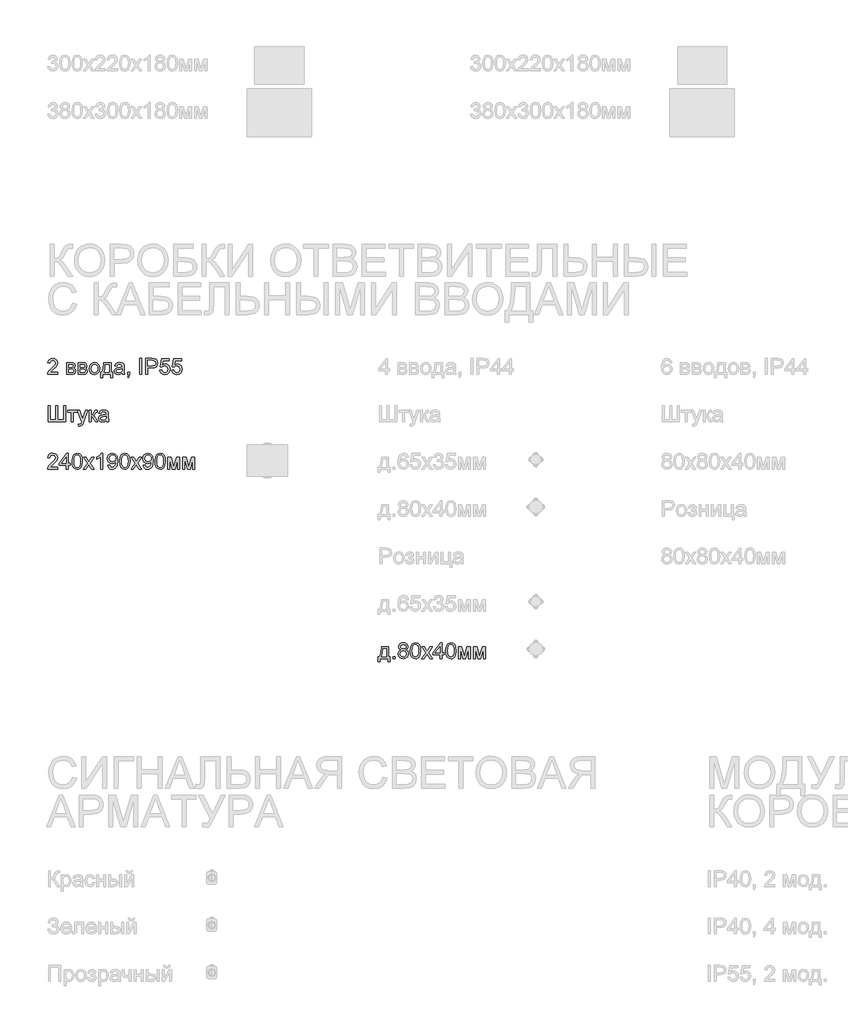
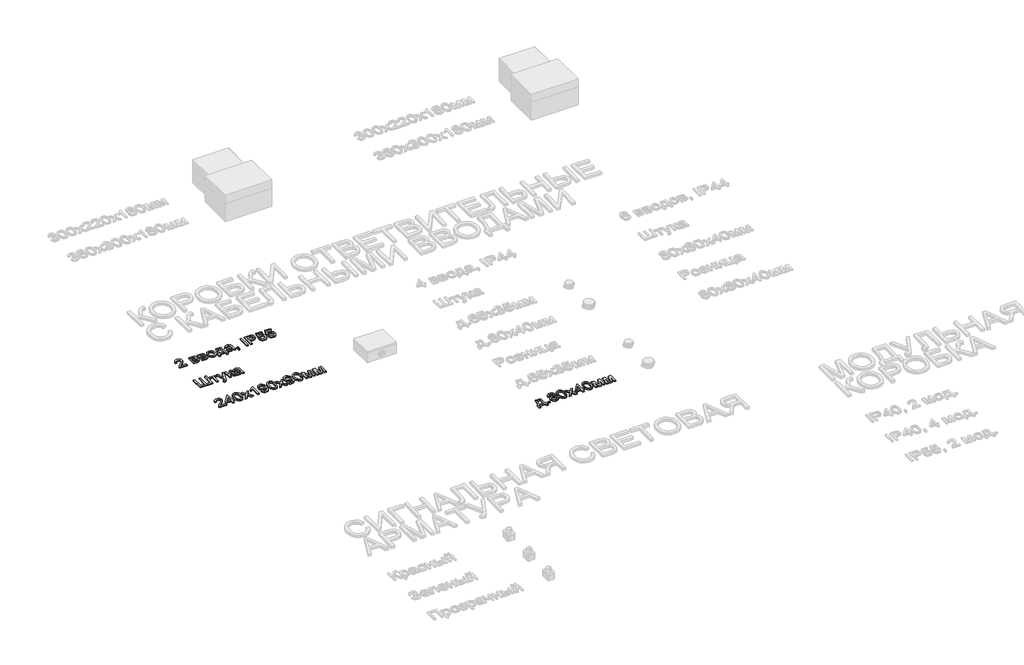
# One storey, part 11 of 98: 4 proxies.
"""IFC4 building model written with IfcOpenShell, lengths in millimetres."""

from ifc_helpers import new_model, si_unit, origin, origin_with_axes, place, context, project, spatial, polyline, outline, extrude, element, save

model = new_model("IFC4")

# Units and contexts
model_context = context("Model", 3, world=origin())
ifc_project = project(units=[si_unit("LENGTHUNIT", "METRE", prefix="MILLI")], contexts=[model_context])

# Site, building, storey
site = spatial("IfcSite", under=ifc_project)
building = spatial("IfcBuilding", under=site)
storey = spatial("IfcBuildingStorey", under=building, Name="Этаж 01", Elevation=0.0)

# Proxies
placement = place(None, origin())
element("IfcBuildingElementProxy", 1, Name="100", ObjectType="100", at=placement, inside=storey, context=model_context, shape_type="SweptSolid", body=[
    extrude(outline(polyline([(23.2423416, -45146.9551277), (23.2423416, -45159.5121665), (-42.6821119, -45159.5121665), (-41.3332113, -45150.8546768), (-33.7057912, -45137.5250859), (-17.9849673, -45122.9692216), (3.6955449, -45102.0489988), (9.115673, -45087.8242283), (4.0021133, -45076.3095219), (-9.3520032, -45071.6128951), (-23.2702053, -45076.1991573), (-28.5554433, -45088.8788234), (-41.1124821, -45087.3091935), (-38.0682586, -45075.1629563), (-31.4862365, -45066.2908689), (-21.7097725, -45060.8646095), (-9.082223, -45059.0558563), (3.6372969, -45061.0669445), (13.3953669, -45067.1002093), (19.6033755, -45076.1133182), (21.6727118, -45087.0639389), (19.4408943, -45098.9710528), (12.0219408, -45111.2828369), (-5.9674888, -45128.4874515), (-20.4129885, -45140.5662437), (-26.0783712, -45146.9551277), (23.2423416, -45146.9551277)])), origin_with_axes(), (0.0, 0.0, 1.0), 10.0),
    extrude(outline(polyline([(78.1793862, -45085.7395637), (105.8441123, -45085.7395637), (121.0131132, -45087.4195581), (129.5479755, -45093.5754502), (133.1164308, -45104.3053417), (130.9581898, -45113.024145), (124.4589412, -45119.2413507), (132.8957016, -45126.0471676), (136.2556905, -45137.8807051), (134.1281063, -45147.4517684), (129.0697289, -45154.1901403), (121.0621641, -45158.1816599), (110.0870179, -45159.5121665), (78.1793862, -45159.5121665), (78.1793862, -45085.7395637)]), holes=[polyline([(90.736425, -45146.9551277), (106.1384179, -45146.9551277), (119.7991026, -45144.6865221), (123.6986518, -45136.8506356), (121.5526734, -45130.8051081), (115.9608671, -45127.2857037), (104.9121445, -45126.5499397), (90.736425, -45126.5499397), (90.736425, -45146.9551277)]), polyline([(90.736425, -45113.9929009), (103.146311, -45113.9929009), (113.3856932, -45113.3552388), (118.3643628, -45110.8045903), (120.5593921, -45106.1938026), (116.7088938, -45100.0379106), (103.5387184, -45098.2966025), (90.736425, -45098.2966025), (90.736425, -45113.9929009)])]), origin_with_axes(), (0.0, 0.0, 1.0), 10.0),
    extrude(outline(polyline([(151.951989, -45085.7395637), (179.616715, -45085.7395637), (194.785716, -45087.4195581), (203.3205782, -45093.5754502), (206.8890336, -45104.3053417), (204.7307926, -45113.024145), (198.231544, -45119.2413507), (206.6683044, -45126.0471676), (210.0282933, -45137.8807051), (207.9007091, -45147.4517684), (202.8423316, -45154.1901403), (194.8347669, -45158.1816599), (183.8596207, -45159.5121665), (151.951989, -45159.5121665), (151.951989, -45085.7395637)]), holes=[polyline([(164.5090278, -45113.9929009), (176.9189137, -45113.9929009), (187.1582959, -45113.3552388), (192.1369656, -45110.8045903), (194.3319948, -45106.1938026), (190.4814966, -45100.0379106), (177.3113212, -45098.2966025), (164.5090278, -45098.2966025), (164.5090278, -45113.9929009)]), polyline([(164.5090278, -45146.9551277), (179.9110206, -45146.9551277), (193.5717054, -45144.6865221), (197.4712545, -45136.8506356), (195.3252762, -45130.8051081), (189.7334699, -45127.2857037), (178.6847473, -45126.5499397), (164.5090278, -45126.5499397), (164.5090278, -45146.9551277)])]), origin_with_axes(), (0.0, 0.0, 1.0), 10.0),
    extrude(outline(polyline([(222.5853321, -45122.6258651), (225.3015275, -45104.8387706), (233.4501136, -45092.3369141), (243.5178176, -45086.2116789), (255.5720843, -45084.1699338), (268.7637195, -45086.656203), (279.300473, -45094.1150104), (286.2074574, -45105.957745), (288.5097856, -45121.5957955), (284.4385582, -45143.9384953), (272.5804952, -45156.5813732), (255.5720843, -45161.0817963), (242.2210336, -45158.6047242), (231.6965428, -45151.1735079), (224.8631347, -45139.082453), (222.5853321, -45122.6258651)]), holes=[polyline([(235.1423708, -45122.6013396), (236.5955047, -45133.9658276), (240.9549064, -45142.0622972), (247.5154686, -45146.9091424), (255.5720843, -45148.5247575), (263.5919118, -45146.8999454), (270.1402113, -45142.025509), (274.4996129, -45133.8217405), (275.9527468, -45122.2089321), (274.4904159, -45111.175538), (270.1034231, -45103.189433), (263.5459265, -45098.3425877), (255.5720843, -45096.7269726), (247.5154686, -45098.3364563), (240.9549064, -45103.1649075), (236.5955047, -45111.242983), (235.1423708, -45122.6013396)])]), origin_with_axes(), (0.0, 0.0, 1.0), 10.0),
    extrude(outline(polyline([(313.6238631, -45085.7395637), (360.7127585, -45085.7395637), (360.7127585, -45146.9551277), (370.1305376, -45146.9551277), (370.1305376, -45179.9173545), (357.5734988, -45179.9173545), (357.5734988, -45159.5121665), (305.7757139, -45159.5121665), (305.7757139, -45179.9173545), (293.2186751, -45179.9173545), (293.2186751, -45146.9551277), (301.0668244, -45146.9551277), (310.7666463, -45123.0060098), (313.6238631, -45085.7395637)]), holes=[polyline([(324.6112721, -45098.2966025), (321.6682161, -45126.905559), (315.193493, -45146.9551277), (348.1557197, -45146.9551277), (348.1557197, -45098.2966025), (324.6112721, -45098.2966025)])]), origin_with_axes(), (0.0, 0.0, 1.0), 10.0),
    extrude(outline(polyline([(431.3461016, -45150.0943874), (419.1692075, -45158.6047242), (405.7169893, -45161.0817963), (395.2231553, -45159.5918742), (387.482305, -45155.122108), (382.7090361, -45148.3346852), (381.1179465, -45139.8917934), (383.5214422, -45129.9589795), (389.8367498, -45122.7484924), (398.6291295, -45118.6282141), (409.4939111, -45116.7397532), (431.2725252, -45112.4232711), (431.3461016, -45109.6273679), (427.8880108, -45100.3567416), (414.0065969, -45096.7269726), (401.3024053, -45099.142731), (395.2446151, -45107.7143815), (382.6875764, -45106.1447517), (388.1199672, -45093.8820185), (399.0583251, -45086.6960569), (415.6252777, -45084.1699338), (430.8433295, -45086.4017513), (439.4395055, -45092.0058203), (443.2900037, -45100.5284199), (443.9031404, -45111.5158288), (443.9031404, -45127.1385509), (444.5408025, -45148.9539532), (447.0424, -45159.5121665), (434.4853613, -45159.5121665), (431.3461016, -45150.0943874)]), holes=[polyline([(431.3461016, -45124.9803098), (411.0880664, -45128.8308081), (400.2845985, -45130.8664218), (395.3917679, -45134.1773597), (393.6749853, -45139.0088766), (397.4151189, -45145.8024308), (408.3902651, -45148.5247575), (421.0944567, -45145.5203879), (429.2859624, -45138.2485871), (431.2725252, -45128.5365025), (431.3461016, -45124.9803098)])]), origin_with_axes(), (0.0, 0.0, 1.0), 10.0),
    extrude(outline(polyline([(464.3083284, -45159.5121665), (464.3083284, -45146.9551277), (476.8653671, -45146.9551277), (476.8653671, -45159.5121665), (474.6090242, -45172.3512481), (467.447588, -45179.9173545), (464.3083284, -45175.2084649), (468.919116, -45169.7883369), (470.5623223, -45159.5121665), (464.3083284, -45159.5121665)])), origin_with_axes(), (0.0, 0.0, 1.0), 10.0),
    extrude(outline(polyline([(542.7898207, -45159.5121665), (542.7898207, -45059.0558563), (555.3468594, -45059.0558563), (555.3468594, -45159.5121665), (542.7898207, -45159.5121665)])), origin_with_axes(), (0.0, 0.0, 1.0), 10.0),
    extrude(outline(polyline([(580.460937, -45159.5121665), (580.460937, -45059.0558563), (617.6905949, -45059.0558563), (632.7001803, -45060.0123495), (644.9015998, -45064.7089763), (652.8110627, -45074.421061), (655.8031696, -45088.1185339), (653.7828843, -45099.9582028), (647.7220284, -45109.8235716), (636.3881973, -45116.4822358), (618.5489862, -45118.7017905), (593.0179757, -45118.7017905), (593.0179757, -45159.5121665), (580.460937, -45159.5121665)]), holes=[polyline([(593.0179757, -45106.1447517), (619.2847502, -45106.1447517), (637.7769518, -45101.533964), (641.8788361, -45095.9850773), (643.2461308, -45088.5599923), (640.021032, -45078.1611946), (631.5474834, -45072.4712864), (618.9904446, -45071.6128951), (593.0179757, -45071.6128951), (593.0179757, -45106.1447517)])]), origin_with_axes(), (0.0, 0.0, 1.0), 10.0),
    extrude(outline(polyline([(668.3602083, -45132.8284591), (680.9172471, -45131.2588292), (687.2448174, -45144.1960127), (700.3659419, -45148.5247575), (709.3667881, -45147.019507), (716.1112913, -45142.5037555), (720.3235402, -45135.4986692), (721.7276231, -45126.5254142), (716.4669106, -45111.6139307), (709.8603631, -45107.5120464), (700.5621457, -45106.1447517), (689.5379485, -45108.3275182), (682.486877, -45113.9929009), (669.9298382, -45112.4232711), (680.9172471, -45060.6254862), (729.5757723, -45060.6254862), (729.5757723, -45073.1825249), (691.0707902, -45073.1825249), (685.6997131, -45100.847251), (694.6699024, -45095.4025974), (704.0692873, -45093.5877129), (715.8016573, -45095.8379245), (725.5413331, -45102.5885591), (732.0988297, -45112.8769922), (734.2846619, -45125.7405993), (732.3164932, -45138.2976381), (726.4119872, -45149.0397923), (715.1057472, -45158.0712953), (700.316891, -45161.0817963), (687.9836471, -45159.1473501), (678.1581322, -45153.3440117), (671.422826, -45144.3462312), (668.3602083, -45132.8284591)])), origin_with_axes(), (0.0, 0.0, 1.0), 10.0),
    extrude(outline(polyline([(745.2720708, -45132.8284591), (757.8291096, -45131.2588292), (764.1566799, -45144.1960127), (777.2778044, -45148.5247575), (786.2786505, -45147.019507), (793.0231538, -45142.5037555), (797.2354026, -45135.4986692), (798.6394856, -45126.5254142), (793.378773, -45111.6139307), (786.7722255, -45107.5120464), (777.4740081, -45106.1447517), (766.449811, -45108.3275182), (759.3987394, -45113.9929009), (746.8417007, -45112.4232711), (757.8291096, -45060.6254862), (806.4876348, -45060.6254862), (806.4876348, -45073.1825249), (767.9826526, -45073.1825249), (762.6115755, -45100.847251), (771.5817648, -45095.4025974), (780.9811498, -45093.5877129), (792.7135198, -45095.8379245), (802.4531956, -45102.5885591), (809.0106922, -45112.8769922), (811.1965243, -45125.7405993), (809.2283557, -45138.2976381), (803.3238496, -45149.0397923), (792.0176097, -45158.0712953), (777.2287535, -45161.0817963), (764.8955096, -45159.1473501), (755.0699946, -45153.3440117), (748.3346884, -45144.3462312), (745.2720708, -45132.8284591)])), origin_with_axes(), (0.0, 0.0, 1.0), 10.0),
])
element("IfcBuildingElementProxy", 2, Name="100", ObjectType="100", at=placement, inside=storey, context=model_context, shape_type="SweptSolid", body=[
    extrude(outline(polyline([(-37.9732224, -45359.0558563), (-25.4161836, -45359.0558563), (-25.4161836, -45446.9551277), (10.6853028, -45446.9551277), (10.6853028, -45359.0558563), (23.2423416, -45359.0558563), (23.2423416, -45446.9551277), (59.3438281, -45446.9551277), (59.3438281, -45359.0558563), (71.9008668, -45359.0558563), (71.9008668, -45459.5121665), (-37.9732224, -45459.5121665), (-37.9732224, -45359.0558563)])), origin_with_axes(), (0.0, 0.0, 1.0), 10.0),
    extrude(outline(polyline([(84.4579056, -45385.7395637), (144.1038398, -45385.7395637), (144.1038398, -45398.2966025), (120.5593921, -45398.2966025), (120.5593921, -45459.5121665), (108.0023533, -45459.5121665), (108.0023533, -45398.2966025), (84.4579056, -45398.2966025), (84.4579056, -45385.7395637)])), origin_with_axes(), (0.0, 0.0, 1.0), 10.0),
    extrude(outline(polyline([(155.0912487, -45487.7655037), (153.5216188, -45475.6744488), (159.8982401, -45476.7780948), (165.8579284, -45475.3924059), (169.5122229, -45471.529645), (172.9457882, -45462.2835442), (173.9268068, -45459.2423863), (147.2430994, -45385.7395637), (160.4868513, -45385.7395637), (174.6380454, -45426.6970925), (179.5676641, -45443.080104), (184.4972828, -45428.6100789), (199.0408844, -45385.7395637), (212.1865343, -45385.7395637), (186.5083711, -45461.278), (179.8374442, -45477.6610116), (172.5533807, -45486.5147049), (162.7677196, -45489.3351335), (155.0912487, -45487.7655037)])), origin_with_axes(), (0.0, 0.0, 1.0), 10.0),
    extrude(outline(polyline([(222.5853321, -45385.7395637), (235.1423708, -45385.7395637), (235.1423708, -45417.1321606), (243.5546058, -45414.8758177), (250.4462618, -45401.7301677), (256.1729582, -45390.3871396), (261.2252043, -45386.6960569), (270.4099914, -45385.7395637), (272.8134871, -45385.7395637), (272.8134871, -45398.3701789), (269.4289728, -45398.2966025), (263.2976062, -45399.6209776), (258.9811241, -45407.8860598), (253.9166153, -45416.8255923), (246.8164928, -45421.203388), (254.7382184, -45426.0900872), (262.5127913, -45436.3846517), (275.9527468, -45459.5121665), (261.6789254, -45459.5121665), (248.50875, -45436.875161), (241.8868741, -45427.2979664), (235.1423708, -45424.9803098), (235.1423708, -45459.5121665), (222.5853321, -45459.5121665), (222.5853321, -45385.7395637)])), origin_with_axes(), (0.0, 0.0, 1.0), 10.0),
    extrude(outline(polyline([(330.8897914, -45450.0943874), (318.7128974, -45458.6047242), (305.2606791, -45461.0817963), (294.7668452, -45459.5918742), (287.0259949, -45455.122108), (282.252726, -45448.3346852), (280.6616364, -45439.8917934), (283.0651321, -45429.9589795), (289.3804396, -45422.7484924), (298.1728193, -45418.6282141), (309.0376009, -45416.7397532), (330.816215, -45412.4232711), (330.8897914, -45409.6273679), (327.4317007, -45400.3567416), (313.5502867, -45396.7269726), (300.8460952, -45399.142731), (294.788305, -45407.7143815), (282.2312662, -45406.1447517), (287.663657, -45393.8820185), (298.602015, -45386.6960569), (315.1689675, -45384.1699338), (330.3870194, -45386.4017513), (338.9831953, -45392.0058203), (342.8336935, -45400.5284199), (343.4468302, -45411.5158288), (343.4468302, -45427.1385509), (344.0844923, -45448.9539532), (346.5860899, -45459.5121665), (334.0290511, -45459.5121665), (330.8897914, -45450.0943874)]), holes=[polyline([(330.8897914, -45424.9803098), (310.6317562, -45428.8308081), (299.8282883, -45430.8664218), (294.9354578, -45434.1773597), (293.2186751, -45439.0088766), (296.9588087, -45445.8024308), (307.9339549, -45448.5247575), (320.6381465, -45445.5203879), (328.8296523, -45438.2485871), (330.816215, -45428.5365025), (330.8897914, -45424.9803098)])]), origin_with_axes(), (0.0, 0.0, 1.0), 10.0),
])
element("IfcBuildingElementProxy", 3, Name="100", ObjectType="100", at=placement, inside=storey, context=model_context, shape_type="SweptSolid", body=[
    extrude(outline(polyline([(23.2423416, -45746.9551277), (23.2423416, -45759.5121665), (-42.6821119, -45759.5121665), (-41.3332113, -45750.8546768), (-33.7057912, -45737.5250859), (-17.9849673, -45722.9692216), (3.6955449, -45702.0489988), (9.115673, -45687.8242283), (4.0021133, -45676.3095219), (-9.3520032, -45671.6128951), (-23.2702053, -45676.1991573), (-28.5554433, -45688.8788234), (-41.1124821, -45687.3091935), (-38.0682586, -45675.1629563), (-31.4862365, -45666.2908689), (-21.7097725, -45660.8646095), (-9.082223, -45659.0558563), (3.6372969, -45661.0669445), (13.3953669, -45667.1002093), (19.6033755, -45676.1133182), (21.6727118, -45687.0639389), (19.4408943, -45698.9710528), (12.0219408, -45711.2828369), (-5.9674888, -45728.4874515), (-20.4129885, -45740.5662437), (-26.0783712, -45746.9551277), (23.2423416, -45746.9551277)])), origin_with_axes(), (0.0, 0.0, 1.0), 10.0),
    extrude(outline(polyline([(76.6097564, -45759.5121665), (76.6097564, -45735.9677188), (31.0904908, -45735.9677188), (31.0904908, -45723.41068), (79.7490161, -45660.6254862), (89.1667951, -45660.6254862), (89.1667951, -45723.41068), (101.7238339, -45723.41068), (101.7238339, -45735.9677188), (89.1667951, -45735.9677188), (89.1667951, -45759.5121665), (76.6097564, -45759.5121665)]), holes=[polyline([(76.6097564, -45723.41068), (76.6097564, -45684.6113922), (46.5415346, -45723.41068), (76.6097564, -45723.41068)])]), origin_with_axes(), (0.0, 0.0, 1.0), 10.0),
    extrude(outline(polyline([(112.7112428, -45710.0933518), (116.4023255, -45681.1900897), (127.365209, -45664.5250353), (145.6734696, -45659.0558563), (160.3396985, -45662.2932179), (170.4687161, -45671.6251578), (176.354828, -45686.4875904), (178.6356964, -45710.0933518), (174.9814019, -45738.8739865), (164.0553066, -45755.5758291), (155.823947, -45759.7053045), (145.6734696, -45761.0817963), (132.6259215, -45758.6905633), (122.7176331, -45751.5168644), (115.2128404, -45734.5268476), (112.7112428, -45710.0933518)]), holes=[polyline([(125.2682816, -45710.0688263), (126.7398096, -45729.8210238), (131.1543935, -45741.2529568), (137.7272185, -45746.7068073), (145.6734696, -45748.5247575), (153.6197207, -45746.700676), (160.1925457, -45741.2284313), (164.6071296, -45729.7903669), (166.0786576, -45710.0688263), (164.6561806, -45690.7611529), (160.3887494, -45679.2403151), (153.8281872, -45673.5197501), (145.5263168, -45671.6128951), (137.6659048, -45673.2928895), (131.3505973, -45678.3328729), (126.7888605, -45690.5710806), (125.2682816, -45710.0688263)])]), origin_with_axes(), (0.0, 0.0, 1.0), 10.0),
    extrude(outline(polyline([(184.9142158, -45759.5121665), (211.7450759, -45722.4296613), (186.4838456, -45685.7395637), (201.5915329, -45685.7395637), (213.7806896, -45703.3978995), (219.4705978, -45711.736558), (224.4002166, -45704.9184784), (238.2816305, -45685.7395637), (253.3893178, -45685.7395637), (226.8527632, -45722.4296613), (252.4082991, -45759.5121665), (237.3006119, -45759.5121665), (221.9231445, -45737.2185176), (219.1027158, -45733.1472901), (200.021903, -45759.5121665), (184.9142158, -45759.5121665)])), origin_with_axes(), (0.0, 0.0, 1.0), 10.0),
    extrude(outline(polyline([(307.3453437, -45759.5121665), (294.788305, -45759.5121665), (294.788305, -45681.2268779), (282.8934538, -45689.7004265), (269.6742274, -45696.0402596), (269.6742274, -45684.1699338), (288.0805899, -45672.4222355), (299.2519399, -45659.0558563), (307.3453437, -45659.0558563), (307.3453437, -45759.5121665)])), origin_with_axes(), (0.0, 0.0, 1.0), 10.0),
    extrude(outline(polyline([(338.7379407, -45734.3980889), (351.2949794, -45732.8284591), (356.9358367, -45744.8091494), (367.62894, -45748.5247575), (377.7947458, -45746.1335246), (384.6864019, -45739.7446406), (388.7944175, -45728.8308081), (390.609302, -45714.2626811), (390.5357256, -45711.8101344), (380.4925471, -45721.3260154), (366.7214978, -45724.9803098), (355.2711707, -45722.7484924), (345.7399613, -45716.0530401), (339.3112234, -45705.7094247), (337.1683108, -45692.5331179), (339.4154567, -45678.921484), (346.1568942, -45668.2529062), (356.2828462, -45661.3551188), (368.6835351, -45659.0558563), (386.5748628, -45664.3043061), (398.8866469, -45679.2648406), (403.0927644, -45707.371025), (398.8989096, -45737.8684424), (393.6841823, -45747.8595043), (386.42771, -45755.1466334), (377.4421922, -45759.5980056), (367.0403288, -45761.0817963), (356.3043059, -45759.3312911), (347.7387868, -45754.0797757), (341.7484417, -45745.6583437), (338.7379407, -45734.3980889)]), holes=[polyline([(390.5357256, -45692.2388123), (389.1806936, -45683.7284755), (385.1155975, -45677.1801759), (378.8064213, -45673.0047153), (370.7191488, -45671.6128951), (362.3314393, -45673.1120142), (355.6114615, -45677.6093716), (351.1968776, -45684.4918306), (349.7253496, -45693.1462545), (351.1171698, -45700.9054989), (355.2926305, -45707.0644567), (361.8470613, -45711.0835675), (370.3757923, -45712.4232711), (384.8580801, -45707.0644567), (389.1163142, -45700.6786384), (390.5357256, -45692.2388123)])]), origin_with_axes(), (0.0, 0.0, 1.0), 10.0),
    extrude(outline(polyline([(414.0801733, -45710.0933518), (417.771256, -45681.1900897), (428.7341394, -45664.5250353), (447.0424, -45659.0558563), (461.7086289, -45662.2932179), (471.8376465, -45671.6251578), (477.7237584, -45686.4875904), (480.0046268, -45710.0933518), (476.3503323, -45738.8739865), (465.4242371, -45755.5758291), (457.1928774, -45759.7053045), (447.0424, -45761.0817963), (433.994852, -45758.6905633), (424.0865635, -45751.5168644), (416.5817708, -45734.5268476), (414.0801733, -45710.0933518)]), holes=[polyline([(426.637212, -45710.0688263), (428.10874, -45729.8210238), (432.523324, -45741.2529568), (439.096149, -45746.7068073), (447.0424, -45748.5247575), (454.9886511, -45746.700676), (461.5614761, -45741.2284313), (465.9760601, -45729.7903669), (467.447588, -45710.0688263), (466.025111, -45690.7611529), (461.7576799, -45679.2403151), (455.1971176, -45673.5197501), (446.8952473, -45671.6128951), (439.0348353, -45673.2928895), (432.7195277, -45678.3328729), (428.157791, -45690.5710806), (426.637212, -45710.0688263)])]), origin_with_axes(), (0.0, 0.0, 1.0), 10.0),
    extrude(outline(polyline([(486.2831462, -45759.5121665), (513.1140064, -45722.4296613), (487.852776, -45685.7395637), (502.9604633, -45685.7395637), (515.1496201, -45703.3978995), (520.8395283, -45711.736558), (525.769147, -45704.9184784), (539.650561, -45685.7395637), (554.7582482, -45685.7395637), (528.2216937, -45722.4296613), (553.7772296, -45759.5121665), (538.6695423, -45759.5121665), (523.2920749, -45737.2185176), (520.4716463, -45733.1472901), (501.3908335, -45759.5121665), (486.2831462, -45759.5121665)])), origin_with_axes(), (0.0, 0.0, 1.0), 10.0),
    extrude(outline(polyline([(563.1950087, -45734.3980889), (575.7520474, -45732.8284591), (581.3929047, -45744.8091494), (592.086008, -45748.5247575), (602.2518138, -45746.1335246), (609.1434699, -45739.7446406), (613.2514855, -45728.8308081), (615.06637, -45714.2626811), (614.9927936, -45711.8101344), (604.9496151, -45721.3260154), (591.1785658, -45724.9803098), (579.7282387, -45722.7484924), (570.1970293, -45716.0530401), (563.7682914, -45705.7094247), (561.6253788, -45692.5331179), (563.8725247, -45678.921484), (570.6139622, -45668.2529062), (580.7399141, -45661.3551188), (593.1406031, -45659.0558563), (611.0319308, -45664.3043061), (623.3437149, -45679.2648406), (627.5498323, -45707.371025), (623.3559776, -45737.8684424), (618.1412503, -45747.8595043), (610.884778, -45755.1466334), (601.8992602, -45759.5980056), (591.4973968, -45761.0817963), (580.7613739, -45759.3312911), (572.1958548, -45754.0797757), (566.2055097, -45745.6583437), (563.1950087, -45734.3980889)]), holes=[polyline([(614.9927936, -45692.2388123), (613.6377616, -45683.7284755), (609.5726655, -45677.1801759), (603.2634893, -45673.0047153), (595.1762168, -45671.6128951), (586.7885073, -45673.1120142), (580.0685295, -45677.6093716), (575.6539456, -45684.4918306), (574.1824176, -45693.1462545), (575.5742378, -45700.9054989), (579.7496984, -45707.0644567), (586.3041293, -45711.0835675), (594.8328602, -45712.4232711), (609.3151481, -45707.0644567), (613.5733822, -45700.6786384), (614.9927936, -45692.2388123)])]), origin_with_axes(), (0.0, 0.0, 1.0), 10.0),
    extrude(outline(polyline([(638.5372413, -45710.0933518), (642.228324, -45681.1900897), (653.1912074, -45664.5250353), (671.499468, -45659.0558563), (686.1656969, -45662.2932179), (696.2947145, -45671.6251578), (702.1808264, -45686.4875904), (704.4616948, -45710.0933518), (700.8074003, -45738.8739865), (689.8813051, -45755.5758291), (681.6499454, -45759.7053045), (671.499468, -45761.0817963), (658.4519199, -45758.6905633), (648.5436315, -45751.5168644), (641.0388388, -45734.5268476), (638.5372413, -45710.0933518)]), holes=[polyline([(651.09428, -45710.0688263), (652.565808, -45729.8210238), (656.980392, -45741.2529568), (663.5532169, -45746.7068073), (671.499468, -45748.5247575), (679.4457191, -45746.700676), (686.0185441, -45741.2284313), (690.4331281, -45729.7903669), (691.904656, -45710.0688263), (690.482179, -45690.7611529), (686.2147478, -45679.2403151), (679.6541856, -45673.5197501), (671.3523152, -45671.6128951), (663.4919033, -45673.2928895), (657.1765957, -45678.3328729), (652.614859, -45690.5710806), (651.09428, -45710.0688263)])]), origin_with_axes(), (0.0, 0.0, 1.0), 10.0),
    extrude(outline(polyline([(718.5883634, -45685.7395637), (740.1952993, -45685.7395637), (756.8480909, -45744.7968867), (774.8007323, -45685.7395637), (795.5002259, -45685.7395637), (795.5002259, -45759.5121665), (782.9431871, -45759.5121665), (782.9431871, -45700.111487), (764.8924439, -45759.5121665), (748.4113305, -45759.5121665), (731.1454022, -45697.2665329), (731.1454022, -45759.5121665), (718.5883634, -45759.5121665), (718.5883634, -45685.7395637)])), origin_with_axes(), (0.0, 0.0, 1.0), 10.0),
    extrude(outline(polyline([(814.335784, -45685.7395637), (835.9427199, -45685.7395637), (852.5955115, -45744.7968867), (870.5481529, -45685.7395637), (891.2476465, -45685.7395637), (891.2476465, -45759.5121665), (878.6906077, -45759.5121665), (878.6906077, -45700.111487), (860.6398645, -45759.5121665), (844.1587511, -45759.5121665), (826.8928228, -45697.2665329), (826.8928228, -45759.5121665), (814.335784, -45759.5121665), (814.335784, -45685.7395637)])), origin_with_axes(), (0.0, 0.0, 1.0), 10.0),
])
element("IfcBuildingElementProxy", 4, Name="100", ObjectType="100", at=placement, inside=storey, context=model_context, shape_type="SweptSolid", body=[
    extrude(outline(polyline([(2073.0141865, -46885.7395637), (2120.1030819, -46885.7395637), (2120.1030819, -46946.9551277), (2129.520861, -46946.9551277), (2129.520861, -46979.9173545), (2116.9638222, -46979.9173545), (2116.9638222, -46959.5121665), (2065.1660373, -46959.5121665), (2065.1660373, -46979.9173545), (2052.6089985, -46979.9173545), (2052.6089985, -46946.9551277), (2060.4571478, -46946.9551277), (2070.1569697, -46923.0060098), (2073.0141865, -46885.7395637)]), holes=[polyline([(2084.0015955, -46898.2966025), (2081.0585395, -46926.905559), (2074.5838164, -46946.9551277), (2107.5460431, -46946.9551277), (2107.5460431, -46898.2966025), (2084.0015955, -46898.2966025)])]), origin_with_axes(), (0.0, 0.0, 1.0), 10.0),
    extrude(outline(polyline([(2146.7867893, -46959.5121665), (2146.7867893, -46946.9551277), (2159.3438281, -46946.9551277), (2159.3438281, -46959.5121665), (2146.7867893, -46959.5121665)])), origin_with_axes(), (0.0, 0.0, 1.0), 10.0),
    extrude(outline(polyline([(2198.045014, -46904.1827144), (2186.6038839, -46896.3836161), (2182.8882758, -46884.2435102), (2184.9116267, -46874.4271923), (2190.9816796, -46866.3153943), (2200.4178528, -46860.8707408), (2212.5395646, -46859.0558563), (2224.7348527, -46860.9136604), (2234.2936532, -46866.4870726), (2240.4740707, -46874.7276293), (2242.5342099, -46884.5868668), (2238.8676527, -46896.4204043), (2227.7453537, -46904.1827144), (2241.0994701, -46914.0296891), (2245.6734696, -46930.2778106), (2243.404864, -46942.2830264), (2236.5990471, -46952.2035775), (2226.0898847, -46958.8622416), (2212.7112428, -46961.0817963), (2199.3326009, -46958.8530446), (2188.8234386, -46952.1667893), (2182.0176217, -46942.151202), (2179.7490161, -46929.934454), (2184.5069565, -46913.3061879), (2198.045014, -46904.1827144)]), holes=[polyline([(2192.3060548, -46929.4929957), (2194.4029822, -46938.9475629), (2201.8219358, -46946.02316), (2212.8093447, -46948.5247575), (2221.3564697, -46947.2095794), (2227.7698792, -46943.264045), (2233.1164308, -46929.8854031), (2227.5982009, -46916.2492438), (2221.0376387, -46912.2025419), (2212.3924118, -46910.8536412), (2203.9648484, -46912.1841478), (2197.6158183, -46916.1756674), (2192.3060548, -46929.4929957)]), polyline([(2195.4453145, -46884.6113922), (2199.8966867, -46894.4706297), (2212.8583956, -46898.2966025), (2225.5625872, -46894.4951552), (2229.9771711, -46885.175478), (2225.4154344, -46875.524707), (2212.7112428, -46871.6128951), (2199.9702631, -46875.4388678), (2195.4453145, -46884.6113922)])]), origin_with_axes(), (0.0, 0.0, 1.0), 10.0),
    extrude(outline(polyline([(2256.6608785, -46910.0933518), (2260.3519612, -46881.1900897), (2271.3148447, -46864.5250353), (2289.6231053, -46859.0558563), (2304.2893342, -46862.2932179), (2314.4183518, -46871.6251578), (2320.3044637, -46886.4875904), (2322.5853321, -46910.0933518), (2318.9310376, -46938.8739865), (2308.0049423, -46955.5758291), (2299.7735827, -46959.7053045), (2289.6231053, -46961.0817963), (2276.5755572, -46958.6905633), (2266.6672688, -46951.5168644), (2259.1624761, -46934.5268476), (2256.6608785, -46910.0933518)]), holes=[polyline([(2269.2179173, -46910.0688263), (2270.6894453, -46929.8210238), (2275.1040292, -46941.2529568), (2281.6768542, -46946.7068073), (2289.6231053, -46948.5247575), (2297.5693564, -46946.700676), (2304.1421814, -46941.2284313), (2308.5567653, -46929.7903669), (2310.0282933, -46910.0688263), (2308.6058162, -46890.7611529), (2304.3383851, -46879.2403151), (2297.7778228, -46873.5197501), (2289.4759525, -46871.6128951), (2281.6155405, -46873.2928895), (2275.3002329, -46878.3328729), (2270.7384962, -46890.5710806), (2269.2179173, -46910.0688263)])]), origin_with_axes(), (0.0, 0.0, 1.0), 10.0),
    extrude(outline(polyline([(2328.8638514, -46959.5121665), (2355.6947116, -46922.4296613), (2330.4334813, -46885.7395637), (2345.5411686, -46885.7395637), (2357.7303253, -46903.3978995), (2363.4202335, -46911.736558), (2368.3498523, -46904.9184784), (2382.2312662, -46885.7395637), (2397.3389535, -46885.7395637), (2370.8023989, -46922.4296613), (2396.3579348, -46959.5121665), (2381.2502476, -46959.5121665), (2365.8727802, -46937.2185176), (2363.0523515, -46933.1472901), (2343.9715387, -46959.5121665), (2328.8638514, -46959.5121665)])), origin_with_axes(), (0.0, 0.0, 1.0), 10.0),
    extrude(outline(polyline([(2445.0164601, -46959.5121665), (2445.0164601, -46935.9677188), (2399.4971945, -46935.9677188), (2399.4971945, -46923.41068), (2448.1557197, -46860.6254862), (2457.5734988, -46860.6254862), (2457.5734988, -46923.41068), (2470.1305376, -46923.41068), (2470.1305376, -46935.9677188), (2457.5734988, -46935.9677188), (2457.5734988, -46959.5121665), (2445.0164601, -46959.5121665)]), holes=[polyline([(2445.0164601, -46923.41068), (2445.0164601, -46884.6113922), (2414.9482383, -46923.41068), (2445.0164601, -46923.41068)])]), origin_with_axes(), (0.0, 0.0, 1.0), 10.0),
    extrude(outline(polyline([(2481.1179465, -46910.0933518), (2484.8090292, -46881.1900897), (2495.7719127, -46864.5250353), (2514.0801733, -46859.0558563), (2528.7464022, -46862.2932179), (2538.8754198, -46871.6251578), (2544.7615317, -46886.4875904), (2547.0424, -46910.0933518), (2543.3881056, -46938.8739865), (2532.4620103, -46955.5758291), (2524.2306507, -46959.7053045), (2514.0801733, -46961.0817963), (2501.0326252, -46958.6905633), (2491.1243368, -46951.5168644), (2483.6195441, -46934.5268476), (2481.1179465, -46910.0933518)]), holes=[polyline([(2493.6749853, -46910.0688263), (2495.1465133, -46929.8210238), (2499.5610972, -46941.2529568), (2506.1339222, -46946.7068073), (2514.0801733, -46948.5247575), (2522.0264244, -46946.700676), (2528.5992494, -46941.2284313), (2533.0138333, -46929.7903669), (2534.4853613, -46910.0688263), (2533.0628842, -46890.7611529), (2528.7954531, -46879.2403151), (2522.2348908, -46873.5197501), (2513.9330205, -46871.6128951), (2506.0726085, -46873.2928895), (2499.7573009, -46878.3328729), (2495.1955642, -46890.5710806), (2493.6749853, -46910.0688263)])]), origin_with_axes(), (0.0, 0.0, 1.0), 10.0),
    extrude(outline(polyline([(2561.1690687, -46885.7395637), (2582.7760045, -46885.7395637), (2599.4287962, -46944.7968867), (2617.3814375, -46885.7395637), (2638.0809311, -46885.7395637), (2638.0809311, -46959.5121665), (2625.5238924, -46959.5121665), (2625.5238924, -46900.111487), (2607.4731491, -46959.5121665), (2590.9920357, -46959.5121665), (2573.7261074, -46897.2665329), (2573.7261074, -46959.5121665), (2561.1690687, -46959.5121665), (2561.1690687, -46885.7395637)])), origin_with_axes(), (0.0, 0.0, 1.0), 10.0),
    extrude(outline(polyline([(2656.9164893, -46885.7395637), (2678.5234251, -46885.7395637), (2695.1762168, -46944.7968867), (2713.1288581, -46885.7395637), (2733.8283517, -46885.7395637), (2733.8283517, -46959.5121665), (2721.271313, -46959.5121665), (2721.271313, -46900.111487), (2703.2205697, -46959.5121665), (2686.7394563, -46959.5121665), (2669.473528, -46897.2665329), (2669.473528, -46959.5121665), (2656.9164893, -46959.5121665), (2656.9164893, -46885.7395637)])), origin_with_axes(), (0.0, 0.0, 1.0), 10.0),
])

save(model, "model.ifc")
